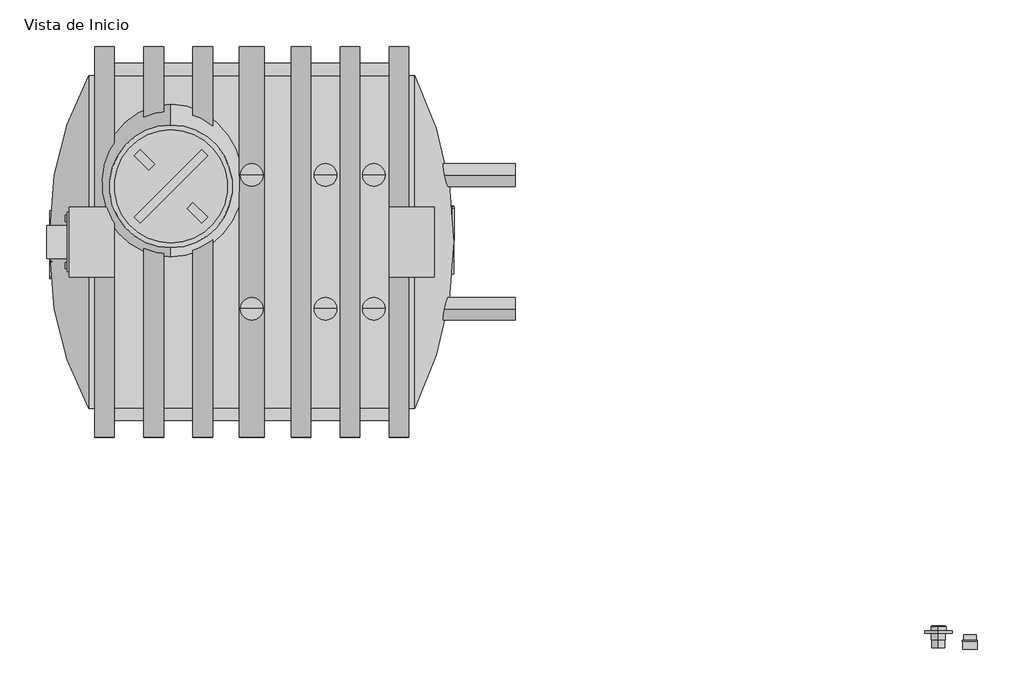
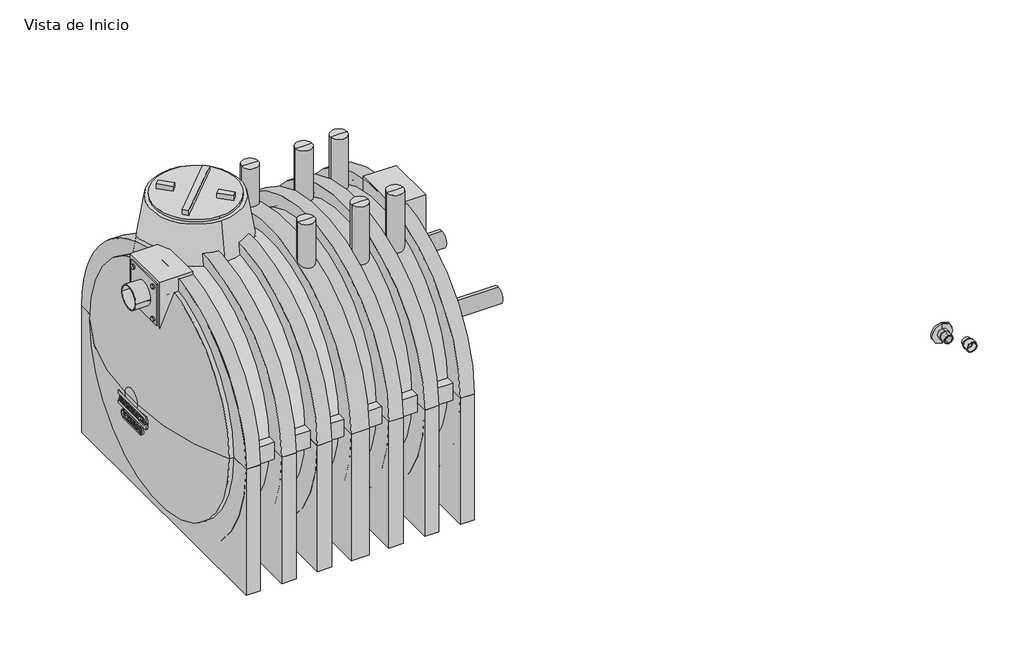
# One storey, incomplete: 3 pipe fittings.
"""IFC4 building model written with IfcOpenShell, lengths in millimetres."""

from ifc_helpers import new_model, si_unit, origin, place, context, project, spatial, transform, mapped, element, save
from components import pipe_fitting_dcdf6bb8, pipe_fitting_64e98824, var_4b903c0a, var_57b3b193

model = new_model("IFC4")

# Units and contexts
model_context = context("Model", 3, world=origin())
ifc_project = project(units=[si_unit("LENGTHUNIT", "METRE", prefix="MILLI")], contexts=[model_context])

# Site, building, storey
site = spatial("IfcSite", under=ifc_project)
building = spatial("IfcBuilding", under=site)
storey = spatial("IfcBuildingStorey", under=building, Name="Vista de Inicio", Elevation=0.0)

# Pipe fittings
placement = place(None, origin())
pipe_fitting_shape = pipe_fitting_dcdf6bb8(model_context)
pipe_fitting_2_shape = pipe_fitting_64e98824(model_context)
element("IfcPipeFitting", 1, ObjectType="Plastigama Wavin_Biotanque Séptico 4000L : 4000 Litros", at=placement, inside=storey, context=model_context, shape_type="MappedRepresentation", body=[
    mapped(pipe_fitting_shape, transform((3157.725182, 686.3325973, 0.0), x_axis=(0.0, 1.0, 0.0), y_axis=(-1.0, 0.0, 0.0), z_axis=(0.0, 0.0, 1.0))),
    mapped(pipe_fitting_2_shape, transform((3157.725182, 686.3325973, 0.0), x_axis=(0.0, 1.0, 0.0), y_axis=(-1.0, 0.0, 0.0), z_axis=(0.0, 0.0, 1.0))),
])
var_shape = var_4b903c0a(model_context)
element("IfcPipeFitting", 2, ObjectType="PlastigamaWavin_Unionesdetubería_LineaDoradaAdaptadorTanque : Var.", at=placement, inside=storey, context=model_context, shape_type="MappedRepresentation", body=[
    mapped(var_shape, transform((5731.3484469, -1213.745155, 104.2890116), x_axis=(1.0, 0.0, 0.0), y_axis=(0.0, 0.0, 1.0), z_axis=(0.0, -1.0, 0.0))),
])
var_2_shape = var_57b3b193(model_context)
element("IfcPipeFitting", 3, ObjectType="PlastigamaWavin_Unionesdetubería_PresiónPVCAdaptadorMR : Var.", at=placement, inside=storey, context=model_context, shape_type="MappedRepresentation", body=[
    mapped(var_2_shape, transform((5884.5217342, -1255.3202999, 0.0), x_axis=(0.0, 1.0, 0.0), y_axis=(-1.0, 0.0, 0.0), z_axis=(0.0, 0.0, 1.0))),
])

save(model, "model.ifc")
